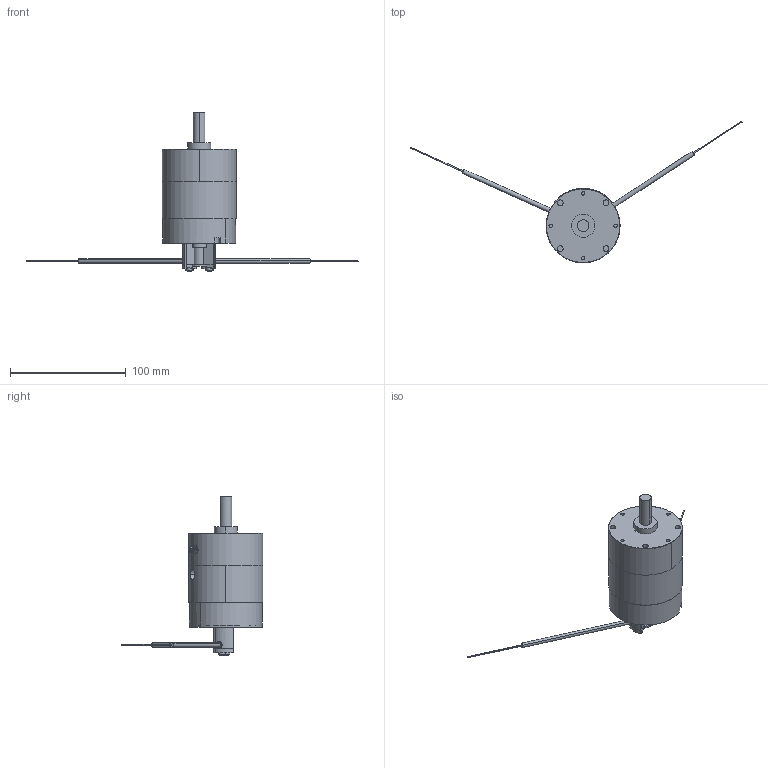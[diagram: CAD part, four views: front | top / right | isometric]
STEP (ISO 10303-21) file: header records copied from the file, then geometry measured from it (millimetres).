
FILE_DESCRIPTION (( 'STEP AP203' ), '1' );
FILE_NAME ('PRO30S_D-#-#-#-FU.STEP', '2016-02-04T06:53:18', ( 'Sam Lin' ), ( '' ), 'SwSTEP 2.0', 'SolidWorks 2013', '' );
FILE_SCHEMA (( 'CONFIG_CONTROL_DESIGN' ));
Length unit declared in the file: metre
Products named in the file (13): PROA30D-#-#-#-FR (5); PROA30D-#-# (2); PROA30D-#-#-#-FR (7); PROA30D-#-# (3); PROA30D-#-# (1); PROA30D-#-# (5); PROA30D-#-#-#-FU (2); PROA30D-#-# (7); 鏡射PROA30D-#-#-#-FU (2); mark-PROA30S; PRO30S_D-#-#-#-FU; PROA30D-#-#-#-FR (4); PROA30D-#-#-#-FR (2)
Assembly tree (15 placements, depth 2):
  PRO30S_D-#-#-#-FU
    PROA30D-#-# (2)
    PROA30D-#-# (3)
    PROA30D-#-# (1)
    PROA30D-#-# (5)
    PROA30D-#-# (7)
    mark-PROA30S
    PROA30D-#-#-#-FR (4)
    PROA30D-#-#-#-FR (2)  x2
    PROA30D-#-#-#-FR (5)  x2
    PROA30D-#-#-#-FR (7)  x2
    PROA30D-#-#-#-FU (2)
    鏡射PROA30D-#-#-#-FU (2)
Bounding box: 286.86 x 122.59 x 137.11 mm (x, y, z)
Volume: 217261.8 mm3; surface area: 59633.1 mm2
Topology: 23 solids, 23 shells, 519 faces, 1270 edges, 842 vertices
Faces by surface type: cylinder 239, plane 231, bspline 39, cone 10
Entity records: 19560 total; most frequent: CARTESIAN_POINT 6974, DIRECTION 2381, ORIENTED_EDGE 2262, EDGE_CURVE 1131, AXIS2_PLACEMENT_3D 917, VERTEX_POINT 752, LINE 547, VECTOR 547
